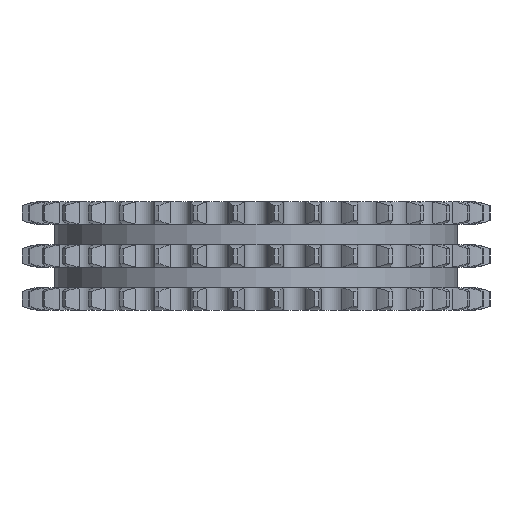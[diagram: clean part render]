
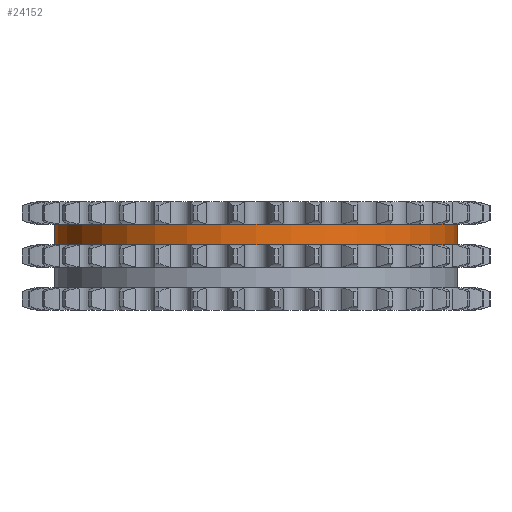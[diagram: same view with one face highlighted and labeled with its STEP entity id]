
A CAD part, left-side view. The second image highlights one B-rep face of the part: STEP entity #24152.
In plain terms, the highlighted cylindrical face has radius 64.858 mm (diameter 129.716 mm), a partial arc.
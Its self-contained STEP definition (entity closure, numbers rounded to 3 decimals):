
#4709=DIRECTION('',(0.,0.,-1.));
#4710=VECTOR('',#4709,6.65);
#4711=CARTESIAN_POINT('',(0.,64.858,10.25));
#4712=LINE('',#4711,#4710);
#4716=CARTESIAN_POINT('',(0.,0.,10.25));
#4717=DIRECTION('',(0.,0.,1.));
#4718=DIRECTION('',(0.,1.,0.));
#4719=AXIS2_PLACEMENT_3D('',#4716,#4717,#4718);
#4724=DIRECTION('',(0.,0.,-1.));
#4725=VECTOR('',#4724,6.65);
#4726=CARTESIAN_POINT('',(0.,-64.858,10.25));
#4727=LINE('',#4726,#4725);
#4731=CARTESIAN_POINT('',(0.,0.,3.6));
#4732=DIRECTION('',(0.,0.,1.));
#4733=DIRECTION('',(0.,1.,0.));
#4734=AXIS2_PLACEMENT_3D('',#4731,#4732,#4733);
#19412=CARTESIAN_POINT('',(0.,64.858,10.25));
#19413=CARTESIAN_POINT('',(0.,64.858,3.6));
#19414=VERTEX_POINT('',#19412);
#19415=VERTEX_POINT('',#19413);
#19416=CARTESIAN_POINT('',(0.,-64.858,10.25));
#19417=CARTESIAN_POINT('',(0.,-64.858,3.6));
#19418=VERTEX_POINT('',#19416);
#19419=VERTEX_POINT('',#19417);
#24140=CARTESIAN_POINT('',(0.,0.,11.275));
#24141=DIRECTION('',(0.,0.,-1.));
#24142=DIRECTION('',(0.,-1.,0.));
#24143=AXIS2_PLACEMENT_3D('',#24140,#24141,#24142);
#24144=CYLINDRICAL_SURFACE('',#24143,64.858);
#24145=ORIENTED_EDGE('',*,*,#24130,.F.);
#24146=ORIENTED_EDGE('',*,*,#24120,.T.);
#24147=ORIENTED_EDGE('',*,*,#24134,.T.);
#24149=ORIENTED_EDGE('',*,*,#24148,.F.);
#24150=EDGE_LOOP('',(#24145,#24146,#24147,#24149));
#24151=FACE_OUTER_BOUND('',#24150,.F.);
#24152=ADVANCED_FACE('',(#24151),#24144,.T.);
#4720=CIRCLE('',#4719,64.858);
#4735=CIRCLE('',#4734,64.858);
#24120=EDGE_CURVE('',#19414,#19418,#4720,.T.);
#24130=EDGE_CURVE('',#19414,#19415,#4712,.T.);
#24134=EDGE_CURVE('',#19418,#19419,#4727,.T.);
#24148=EDGE_CURVE('',#19415,#19419,#4735,.T.);
